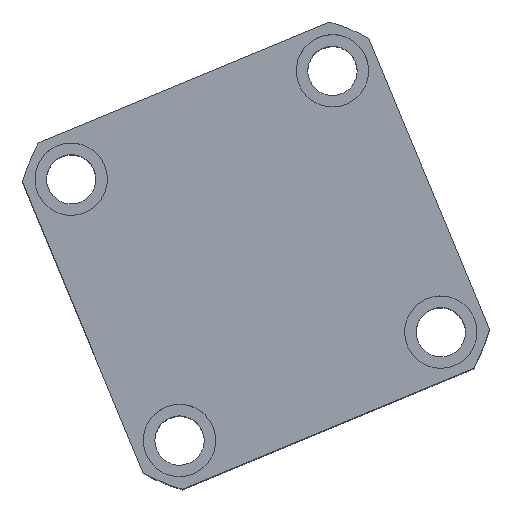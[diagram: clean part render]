
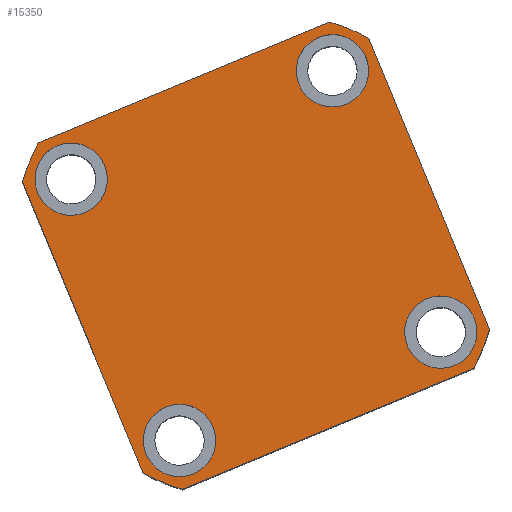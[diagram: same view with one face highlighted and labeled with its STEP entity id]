
A CAD part, top view. The second image highlights one B-rep face of the part: STEP entity #15350.
In plain terms, the highlighted planar face has unit normal (0, 0, 1) as drawn and (0, 0, -1) by its records, which use the part's own axes.
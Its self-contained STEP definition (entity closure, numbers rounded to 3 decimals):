
#325 = AXIS2_PLACEMENT_3D ( 'NONE', #4258, #15321, #5854 ) ;
#540 = FACE_BOUND ( 'NONE', #5029, .T. ) ;
#668 = CARTESIAN_POINT ( 'NONE',  ( -57., 57., 0. ) ) ;
#794 = EDGE_LOOP ( 'NONE', ( #3266, #7554, #4229, #13873, #12624, #4309, #9517, #9106 ) ) ;
#817 = CIRCLE ( 'NONE', #17330, 74.5 ) ;
#997 = DIRECTION ( 'NONE',  ( -1., 0., 0. ) ) ;
#1083 = DIRECTION ( 'NONE',  ( 0., 0., -1. ) ) ;
#1197 = DIRECTION ( 'NONE',  ( 0., 0., 1. ) ) ;
#1481 = EDGE_CURVE ( 'NONE', #16098, #6701, #2053, .T. ) ;
#1749 = CARTESIAN_POINT ( 'NONE',  ( 32., 43., 0. ) ) ;
#1778 = ORIENTED_EDGE ( 'NONE', *, *, #6902, .F. ) ;
#1779 = VERTEX_POINT ( 'NONE', #16096 ) ;
#2053 = LINE ( 'NONE', #668, #13077 ) ;
#2076 = EDGE_LOOP ( 'NONE', ( #1778, #3186 ) ) ;
#2089 = DIRECTION ( 'NONE',  ( 0., 0., -1. ) ) ;
#2331 = VERTEX_POINT ( 'NONE', #16508 ) ;
#2332 = AXIS2_PLACEMENT_3D ( 'NONE', #5856, #16917, #7468 ) ;
#2482 = CARTESIAN_POINT ( 'NONE',  ( 32., -43., 0. ) ) ;
#3112 = DIRECTION ( 'NONE',  ( 0., 0., -1. ) ) ;
#3145 = CIRCLE ( 'NONE', #7945, 11. ) ;
#3186 = ORIENTED_EDGE ( 'NONE', *, *, #8993, .F. ) ;
#3266 = ORIENTED_EDGE ( 'NONE', *, *, #9672, .F. ) ;
#3556 = VECTOR ( 'NONE', #13145, 1000. ) ;
#3571 = CIRCLE ( 'NONE', #12989, 11. ) ;
#3763 = EDGE_LOOP ( 'NONE', ( #20214, #9215 ) ) ;
#3781 = DIRECTION ( 'NONE',  ( 0., 0., -1. ) ) ;
#3955 = CARTESIAN_POINT ( 'NONE',  ( -57., 57., 0. ) ) ;
#4042 = ORIENTED_EDGE ( 'NONE', *, *, #18243, .F. ) ;
#4229 = ORIENTED_EDGE ( 'NONE', *, *, #6726, .F. ) ;
#4258 = CARTESIAN_POINT ( 'NONE',  ( 43., 43., 0. ) ) ;
#4280 = CIRCLE ( 'NONE', #4303, 11. ) ;
#4303 = AXIS2_PLACEMENT_3D ( 'NONE', #13276, #3781, #14863 ) ;
#4309 = ORIENTED_EDGE ( 'NONE', *, *, #12934, .F. ) ;
#4690 = DIRECTION ( 'NONE',  ( 0., 0., -1. ) ) ;
#4732 = FACE_BOUND ( 'NONE', #12979, .T. ) ;
#4735 = AXIS2_PLACEMENT_3D ( 'NONE', #16994, #1197, #18555 ) ;
#4920 = AXIS2_PLACEMENT_3D ( 'NONE', #11574, #2089, #13151 ) ;
#5021 = CIRCLE ( 'NONE', #17459, 11. ) ;
#5029 = EDGE_LOOP ( 'NONE', ( #14115, #10197 ) ) ;
#5084 = VERTEX_POINT ( 'NONE', #1749 ) ;
#5293 = CIRCLE ( 'NONE', #15415, 74.5 ) ;
#5549 = DIRECTION ( 'NONE',  ( 0., -1., 0. ) ) ;
#5579 = CARTESIAN_POINT ( 'NONE',  ( 0., 0., 0. ) ) ;
#5674 = VERTEX_POINT ( 'NONE', #11639 ) ;
#5749 = AXIS2_PLACEMENT_3D ( 'NONE', #10569, #1083, #12146 ) ;
#5854 = DIRECTION ( 'NONE',  ( -1., 0., 0. ) ) ;
#5856 = CARTESIAN_POINT ( 'NONE',  ( 43., -43., 0. ) ) ;
#5976 = CARTESIAN_POINT ( 'NONE',  ( -32., 43., 0. ) ) ;
#6011 = CARTESIAN_POINT ( 'NONE',  ( -43., 43., 0. ) ) ;
#6248 = CARTESIAN_POINT ( 'NONE',  ( 0., 0., 0. ) ) ;
#6489 = LINE ( 'NONE', #3955, #11229 ) ;
#6701 = VERTEX_POINT ( 'NONE', #8652 ) ;
#6726 = EDGE_CURVE ( 'NONE', #10761, #9611, #5293, .T. ) ;
#6812 = VERTEX_POINT ( 'NONE', #2482 ) ;
#6902 = EDGE_CURVE ( 'NONE', #6812, #8562, #17437, .T. ) ;
#7071 = DIRECTION ( 'NONE',  ( 0., 0., 1. ) ) ;
#7179 = DIRECTION ( 'NONE',  ( 1., 0., 0. ) ) ;
#7468 = DIRECTION ( 'NONE',  ( -1., 0., 0. ) ) ;
#7554 = ORIENTED_EDGE ( 'NONE', *, *, #7776, .F. ) ;
#7637 = DIRECTION ( 'NONE',  ( -1., 0., 0. ) ) ;
#7776 = EDGE_CURVE ( 'NONE', #9611, #2331, #8286, .T. ) ;
#7872 = DIRECTION ( 'NONE',  ( 1., 0., 0. ) ) ;
#7890 = DIRECTION ( 'NONE',  ( 0., 0., 1. ) ) ;
#7945 = AXIS2_PLACEMENT_3D ( 'NONE', #14175, #4690, #15753 ) ;
#8044 = EDGE_CURVE ( 'NONE', #9802, #5084, #17894, .T. ) ;
#8286 = LINE ( 'NONE', #9985, #3556 ) ;
#8329 = EDGE_CURVE ( 'NONE', #1779, #16146, #4280, .T. ) ;
#8448 = FACE_BOUND ( 'NONE', #2076, .T. ) ;
#8562 = VERTEX_POINT ( 'NONE', #16770 ) ;
#8652 = CARTESIAN_POINT ( 'NONE',  ( -47.971, 57., 0. ) ) ;
#8945 = FACE_BOUND ( 'NONE', #3763, .T. ) ;
#8993 = EDGE_CURVE ( 'NONE', #8562, #6812, #5021, .T. ) ;
#9106 = ORIENTED_EDGE ( 'NONE', *, *, #1481, .F. ) ;
#9215 = ORIENTED_EDGE ( 'NONE', *, *, #15504, .F. ) ;
#9264 = DIRECTION ( 'NONE',  ( 1., 0., 0. ) ) ;
#9480 = CARTESIAN_POINT ( 'NONE',  ( -32., -43., 0. ) ) ;
#9517 = ORIENTED_EDGE ( 'NONE', *, *, #10556, .F. ) ;
#9611 = VERTEX_POINT ( 'NONE', #18688 ) ;
#9672 = EDGE_CURVE ( 'NONE', #2331, #16098, #11716, .T. ) ;
#9802 = VERTEX_POINT ( 'NONE', #15941 ) ;
#9985 = CARTESIAN_POINT ( 'NONE',  ( 57., 57., 0. ) ) ;
#10197 = ORIENTED_EDGE ( 'NONE', *, *, #8044, .F. ) ;
#10279 = EDGE_CURVE ( 'NONE', #13454, #20301, #817, .T. ) ;
#10556 = EDGE_CURVE ( 'NONE', #6701, #5674, #12464, .T. ) ;
#10569 = CARTESIAN_POINT ( 'NONE',  ( 43., 43., 0. ) ) ;
#10761 = VERTEX_POINT ( 'NONE', #14077 ) ;
#10805 = LINE ( 'NONE', #20283, #14968 ) ;
#11229 = VECTOR ( 'NONE', #5549, 1000. ) ;
#11574 = CARTESIAN_POINT ( 'NONE',  ( -43., -43., 0. ) ) ;
#11639 = CARTESIAN_POINT ( 'NONE',  ( -57., 47.971, 0. ) ) ;
#11716 = CIRCLE ( 'NONE', #13476, 74.5 ) ;
#12146 = DIRECTION ( 'NONE',  ( -1., 0., 0. ) ) ;
#12464 = CIRCLE ( 'NONE', #12735, 74.5 ) ;
#12604 = CARTESIAN_POINT ( 'NONE',  ( 43., -43., 0. ) ) ;
#12624 = ORIENTED_EDGE ( 'NONE', *, *, #10279, .F. ) ;
#12735 = AXIS2_PLACEMENT_3D ( 'NONE', #16524, #7071, #18094 ) ;
#12934 = EDGE_CURVE ( 'NONE', #5674, #13454, #6489, .T. ) ;
#12979 = EDGE_LOOP ( 'NONE', ( #16198, #4042 ) ) ;
#12989 = AXIS2_PLACEMENT_3D ( 'NONE', #6011, #17075, #7637 ) ;
#13077 = VECTOR ( 'NONE', #997, 1000. ) ;
#13145 = DIRECTION ( 'NONE',  ( 0., 1., 0. ) ) ;
#13151 = DIRECTION ( 'NONE',  ( -1., 0., 0. ) ) ;
#13276 = CARTESIAN_POINT ( 'NONE',  ( -43., 43., 0. ) ) ;
#13388 = CIRCLE ( 'NONE', #325, 11. ) ;
#13454 = VERTEX_POINT ( 'NONE', #15929 ) ;
#13476 = AXIS2_PLACEMENT_3D ( 'NONE', #17325, #7890, #18898 ) ;
#13822 = VERTEX_POINT ( 'NONE', #16659 ) ;
#13873 = ORIENTED_EDGE ( 'NONE', *, *, #17473, .F. ) ;
#14071 = EDGE_CURVE ( 'NONE', #13822, #19450, #16353, .T. ) ;
#14077 = CARTESIAN_POINT ( 'NONE',  ( 47.971, -57., 0. ) ) ;
#14079 = CARTESIAN_POINT ( 'NONE',  ( -47.971, -57., 0. ) ) ;
#14115 = ORIENTED_EDGE ( 'NONE', *, *, #14414, .F. ) ;
#14172 = DIRECTION ( 'NONE',  ( -1., 0., 0. ) ) ;
#14175 = CARTESIAN_POINT ( 'NONE',  ( -43., -43., 0. ) ) ;
#14414 = EDGE_CURVE ( 'NONE', #5084, #9802, #13388, .T. ) ;
#14863 = DIRECTION ( 'NONE',  ( -1., 0., 0. ) ) ;
#14968 = VECTOR ( 'NONE', #9264, 1000. ) ;
#15321 = DIRECTION ( 'NONE',  ( 0., 0., -1. ) ) ;
#15350 = ADVANCED_FACE ( 'NONE', ( #8945, #8448, #540, #4732, #16826 ), #15391, .F. ) ;
#15391 = PLANE ( 'NONE',  #4735 ) ;
#15415 = AXIS2_PLACEMENT_3D ( 'NONE', #5579, #16639, #7179 ) ;
#15504 = EDGE_CURVE ( 'NONE', #19450, #13822, #3145, .T. ) ;
#15753 = DIRECTION ( 'NONE',  ( -1., 0., 0. ) ) ;
#15929 = CARTESIAN_POINT ( 'NONE',  ( -57., -47.971, 0. ) ) ;
#15941 = CARTESIAN_POINT ( 'NONE',  ( 54., 43., 0. ) ) ;
#16096 = CARTESIAN_POINT ( 'NONE',  ( -54., 43., 0. ) ) ;
#16098 = VERTEX_POINT ( 'NONE', #19986 ) ;
#16146 = VERTEX_POINT ( 'NONE', #5976 ) ;
#16198 = ORIENTED_EDGE ( 'NONE', *, *, #8329, .F. ) ;
#16353 = CIRCLE ( 'NONE', #4920, 11. ) ;
#16508 = CARTESIAN_POINT ( 'NONE',  ( 57., 47.971, 0. ) ) ;
#16524 = CARTESIAN_POINT ( 'NONE',  ( 0., 0., 0. ) ) ;
#16639 = DIRECTION ( 'NONE',  ( 0., 0., 1. ) ) ;
#16659 = CARTESIAN_POINT ( 'NONE',  ( -54., -43., 0. ) ) ;
#16770 = CARTESIAN_POINT ( 'NONE',  ( 54., -43., 0. ) ) ;
#16826 = FACE_OUTER_BOUND ( 'NONE', #794, .T. ) ;
#16917 = DIRECTION ( 'NONE',  ( 0., 0., -1. ) ) ;
#16994 = CARTESIAN_POINT ( 'NONE',  ( 0., 0., 0. ) ) ;
#17075 = DIRECTION ( 'NONE',  ( 0., 0., -1. ) ) ;
#17306 = DIRECTION ( 'NONE',  ( 0., 0., 1. ) ) ;
#17325 = CARTESIAN_POINT ( 'NONE',  ( 0., 0., 0. ) ) ;
#17330 = AXIS2_PLACEMENT_3D ( 'NONE', #6248, #17306, #7872 ) ;
#17437 = CIRCLE ( 'NONE', #2332, 11. ) ;
#17459 = AXIS2_PLACEMENT_3D ( 'NONE', #12604, #3112, #14172 ) ;
#17473 = EDGE_CURVE ( 'NONE', #20301, #10761, #10805, .T. ) ;
#17894 = CIRCLE ( 'NONE', #5749, 11. ) ;
#18094 = DIRECTION ( 'NONE',  ( 1., 0., 0. ) ) ;
#18243 = EDGE_CURVE ( 'NONE', #16146, #1779, #3571, .T. ) ;
#18555 = DIRECTION ( 'NONE',  ( 1., 0., 0. ) ) ;
#18688 = CARTESIAN_POINT ( 'NONE',  ( 57., -47.971, 0. ) ) ;
#18898 = DIRECTION ( 'NONE',  ( 1., 0., 0. ) ) ;
#19450 = VERTEX_POINT ( 'NONE', #9480 ) ;
#19986 = CARTESIAN_POINT ( 'NONE',  ( 47.971, 57., 0. ) ) ;
#20214 = ORIENTED_EDGE ( 'NONE', *, *, #14071, .F. ) ;
#20283 = CARTESIAN_POINT ( 'NONE',  ( -57., -57., 0. ) ) ;
#20301 = VERTEX_POINT ( 'NONE', #14079 ) ;
